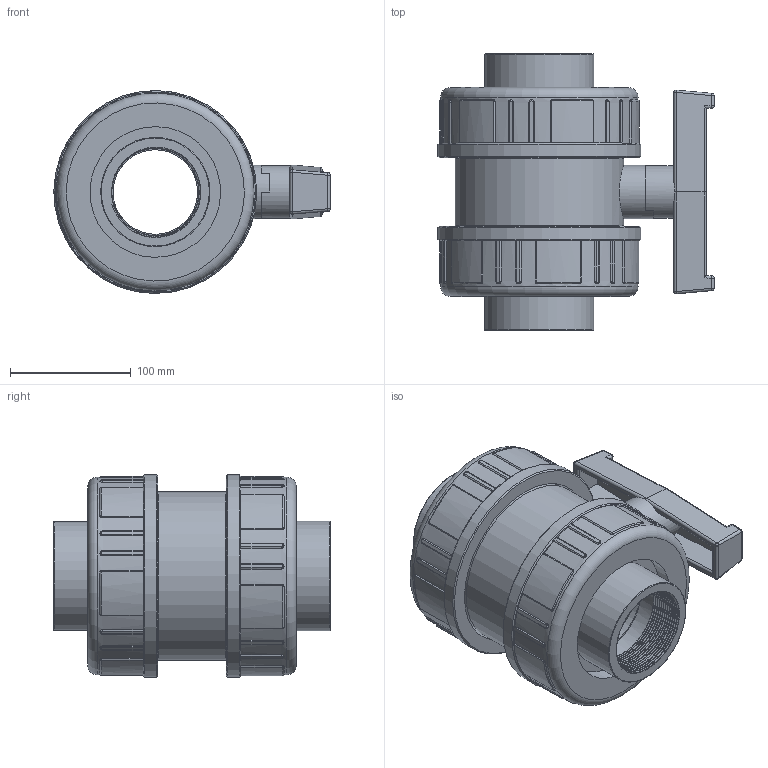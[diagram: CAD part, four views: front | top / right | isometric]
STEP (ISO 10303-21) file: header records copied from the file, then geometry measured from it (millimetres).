
FILE_DESCRIPTION(/* description */ (''),/* implementation_level */ '2;1');
FILE_NAME(/* name */ 'C:\Users\POLYPIPE\Desktop\DATASET INVENTOR\LIBRERIA EFFAST\3D_VALVOLE\3D_VALVOLE A SFERA\3D_BV\3D_BERBVE\3D_BERBVE075H.stp',/* time_stamp */ '2018-01-24T10:08:24+01:00',/* author */ ('POLYPIPE'),/* organization */ (''),/* preprocessor_version */ 'ST-DEVELOPER v16.1',/* originating_system */ 'Autodesk Inventor 2016',/* authorisation */ '');
FILE_SCHEMA (('CONFIG_CONTROL_DESIGN'));
Length unit declared in the file: centimetre
Products named in the file (1): 3D_BERBVE075H
Bounding box: 228.75 x 229 x 168 mm (x, y, z)
Volume: 2641361.1 mm3; surface area: 386322 mm2
Topology: 3 solids, 4 shells, 490 faces, 1228 edges, 761 vertices
Faces by surface type: cylinder 164, bspline 158, plane 134, torus 18, sphere 12, cone 4
Full cylindrical faces by diameter (mm): 29.8 x1, 43.5 x1, 44.1 x1, 70 x2, 72.226 x2, 76.8 x1, 90.5 x2, 108.2 x2, 133 x2, 137 x2, 139.5 x1, 142.5 x2, 163.5 x2, 168 x2
Entity records: 67924 total; most frequent: CARTESIAN_POINT 56507, ORIENTED_EDGE 2378, DIRECTION 2038, EDGE_CURVE 1189, AXIS2_PLACEMENT_3D 772, VERTEX_POINT 753, EDGE_LOOP 542, LINE 494
